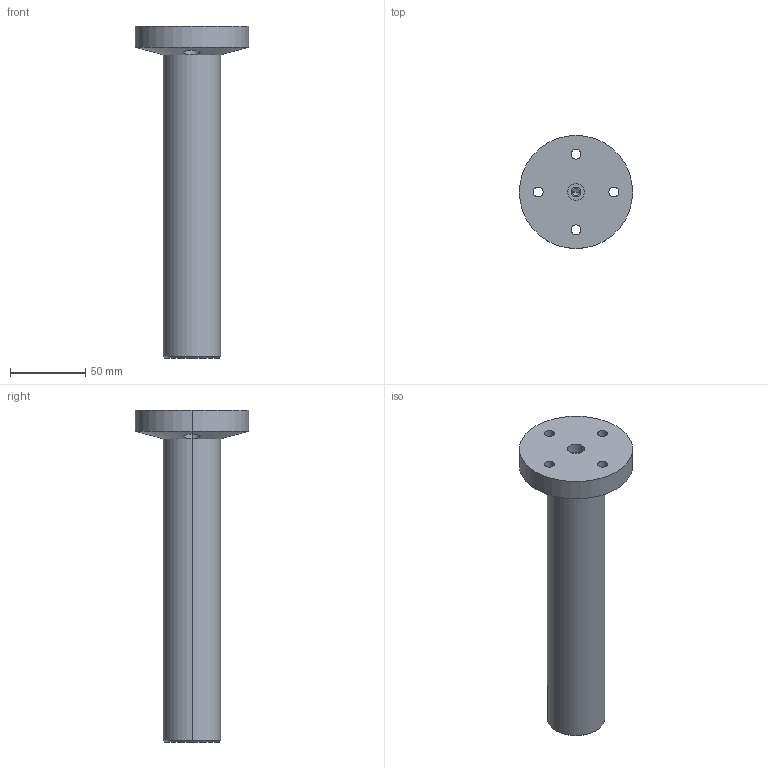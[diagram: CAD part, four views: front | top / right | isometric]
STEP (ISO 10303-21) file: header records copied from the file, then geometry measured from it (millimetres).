
FILE_DESCRIPTION (( 'STEP AP203' ), '1' );
FILE_NAME ('HGMPR1220 盓傅堵.STEP', '2021-07-13T02:50:13', ( '' ), ( '' ), 'SwSTEP 2.0', 'SolidWorks 2020', '' );
FILE_SCHEMA (( 'CONFIG_CONTROL_DESIGN' ));
Length unit declared in the file: millimetre
Products named in the file (3): MMPR90 盓傅堵菁釱; HGMPR1220 盓傅堵; HGMPR1220-1 盓傅堵裝
Assembly tree (2 placements, depth 2):
  HGMPR1220 盓傅堵
    MMPR90 盓傅堵菁釱
    HGMPR1220-1 盓傅堵裝
Bounding box: 75 x 75 x 220 mm (x, y, z)
Volume: 296672 mm3; surface area: 42180.4 mm2
Topology: 2 solids, 2 shells, 48 faces, 116 edges, 72 vertices
Faces by surface type: cylinder 30, plane 10, cone 8
Entity records: 1959 total; most frequent: CARTESIAN_POINT 495, DIRECTION 272, ORIENTED_EDGE 224, AXIS2_PLACEMENT_3D 117, EDGE_CURVE 112, VERTEX_POINT 72, CIRCLE 64, EDGE_LOOP 62
